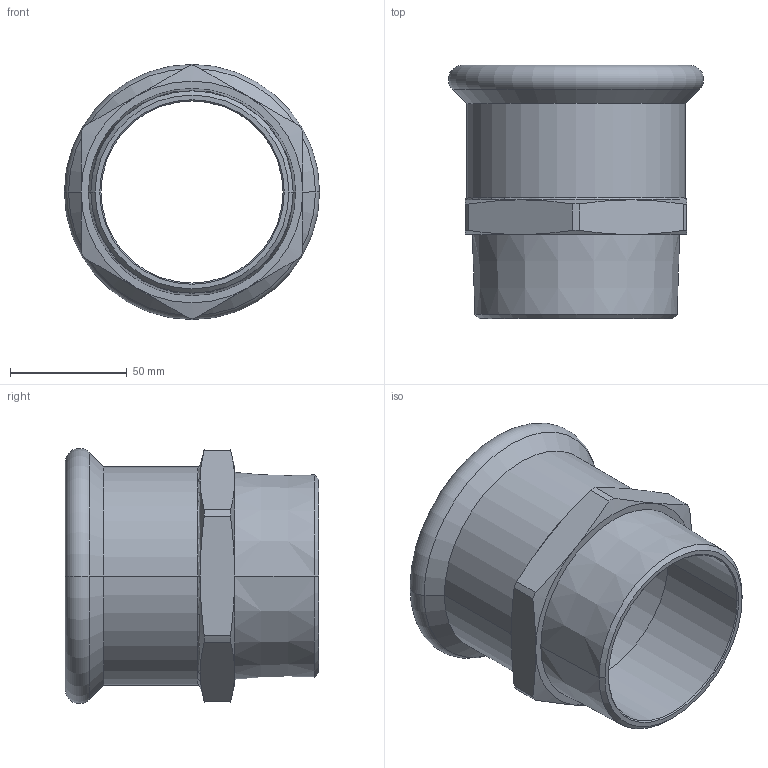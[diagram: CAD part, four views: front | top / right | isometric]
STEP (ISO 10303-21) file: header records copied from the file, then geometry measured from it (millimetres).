
FILE_DESCRIPTION(('Creo Elements/Direct Modeling STEP Export'),'2;1');
FILE_NAME('R2705 89xR3.stp','2018-06-28T11:22:18',(''),(''),'PTC Creo Elements/Direct Modeling STEP processor for AP214 (Solid Model)','PTC Creo Elements/Direct Modeling 19.0C 15-Aug-2015 (C) Parametric Technology GmbH','');
FILE_SCHEMA(('AUTOMOTIVE_DESIGN { 1 0 10303 214 1 1 1 1 }'));
Length unit declared in the file: millimetre
Products named in the file (1): 643301.1.1
Bounding box: 109.33 x 108.5 x 109.33 mm (x, y, z)
Volume: 138764.2 mm3; surface area: 68104.3 mm2
Topology: 1 solids, 1 shells, 47 faces, 112 edges, 68 vertices
Faces by surface type: cone 22, cylinder 12, plane 9, torus 4
Entity records: 2214 total; most frequent: CARTESIAN_POINT 1226, ORIENTED_EDGE 224, DIRECTION 160, EDGE_CURVE 112, VERTEX_POINT 68, AXIS2_PLACEMENT_3D 66, EDGE_LOOP 50, FACE_OUTER_BOUND 47
